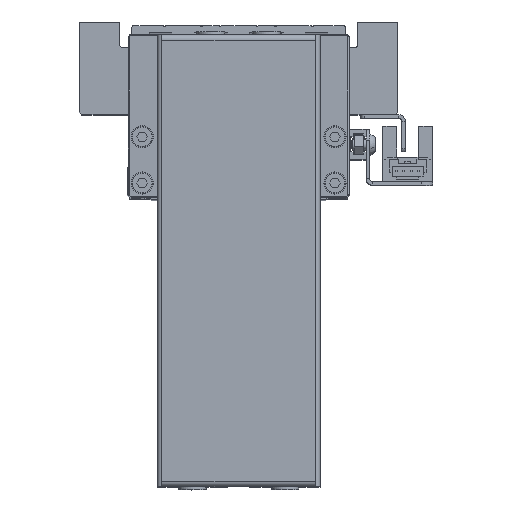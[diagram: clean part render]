
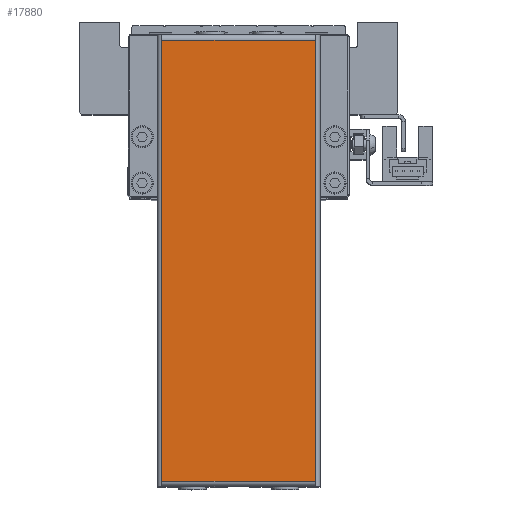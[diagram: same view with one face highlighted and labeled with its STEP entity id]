
A CAD part, top view. The second image highlights one B-rep face of the part: STEP entity #17880.
In plain terms, the highlighted planar face has unit normal (0, 0, 1) as drawn and (0, 0, -1) by its records, which use the part's own axes.
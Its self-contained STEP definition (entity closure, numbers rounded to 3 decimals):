
#5029 = CARTESIAN_POINT ( 'NONE',  ( 0., 0., -1. ) ) ;
#5649 = EDGE_CURVE ( 'NONE', #59917, #47936, #29720, .T. ) ;
#7913 = CARTESIAN_POINT ( 'NONE',  ( 1.5, 1.3, -1. ) ) ;
#7982 = VECTOR ( 'NONE', #40945, 1000. ) ;
#8947 = CARTESIAN_POINT ( 'NONE',  ( 120.5, 42.7, -1. ) ) ;
#9455 = VECTOR ( 'NONE', #67626, 1000. ) ;
#10474 = DIRECTION ( 'NONE',  ( -1., 0., 0. ) ) ;
#16953 = CARTESIAN_POINT ( 'NONE',  ( 120.5, 1.3, -1. ) ) ;
#17880 = ADVANCED_FACE ( 'NONE', ( #39620 ), #26513, .T. ) ;
#18079 = CARTESIAN_POINT ( 'NONE',  ( 1.5, 1.3, -1. ) ) ;
#18237 = VERTEX_POINT ( 'NONE', #39257 ) ;
#21547 = EDGE_CURVE ( 'NONE', #28167, #18237, #61288, .T. ) ;
#24374 = VECTOR ( 'NONE', #43240, 1000. ) ;
#24388 = VECTOR ( 'NONE', #48595, 1000. ) ;
#26513 = PLANE ( 'NONE',  #55938 ) ;
#26646 = CARTESIAN_POINT ( 'NONE',  ( 122., 1.3, -1. ) ) ;
#27135 = ORIENTED_EDGE ( 'NONE', *, *, #5649, .T. ) ;
#28167 = VERTEX_POINT ( 'NONE', #18079 ) ;
#29720 = LINE ( 'NONE', #56224, #9455 ) ;
#31352 = EDGE_CURVE ( 'NONE', #18237, #59917, #44667, .T. ) ;
#34626 = ORIENTED_EDGE ( 'NONE', *, *, #21547, .T. ) ;
#39257 = CARTESIAN_POINT ( 'NONE',  ( 1.5, 42.7, -1. ) ) ;
#39620 = FACE_OUTER_BOUND ( 'NONE', #42554, .T. ) ;
#40945 = DIRECTION ( 'NONE',  ( 0., 1., 0. ) ) ;
#42554 = EDGE_LOOP ( 'NONE', ( #69247, #27135, #47530, #34626 ) ) ;
#42986 = LINE ( 'NONE', #26646, #24388 ) ;
#43240 = DIRECTION ( 'NONE',  ( 1., 0., 0. ) ) ;
#44158 = CARTESIAN_POINT ( 'NONE',  ( 0., 42.7, -1. ) ) ;
#44667 = LINE ( 'NONE', #44158, #24374 ) ;
#46672 = EDGE_CURVE ( 'NONE', #47936, #28167, #42986, .T. ) ;
#47530 = ORIENTED_EDGE ( 'NONE', *, *, #46672, .T. ) ;
#47936 = VERTEX_POINT ( 'NONE', #16953 ) ;
#48008 = DIRECTION ( 'NONE',  ( 0., 0., -1. ) ) ;
#48595 = DIRECTION ( 'NONE',  ( -1., 0., 0. ) ) ;
#55938 = AXIS2_PLACEMENT_3D ( 'NONE', #5029, #48008, #10474 ) ;
#56224 = CARTESIAN_POINT ( 'NONE',  ( 120.5, 42.7, -1. ) ) ;
#59917 = VERTEX_POINT ( 'NONE', #8947 ) ;
#61288 = LINE ( 'NONE', #7913, #7982 ) ;
#67626 = DIRECTION ( 'NONE',  ( 0., -1., 0. ) ) ;
#69247 = ORIENTED_EDGE ( 'NONE', *, *, #31352, .T. ) ;
